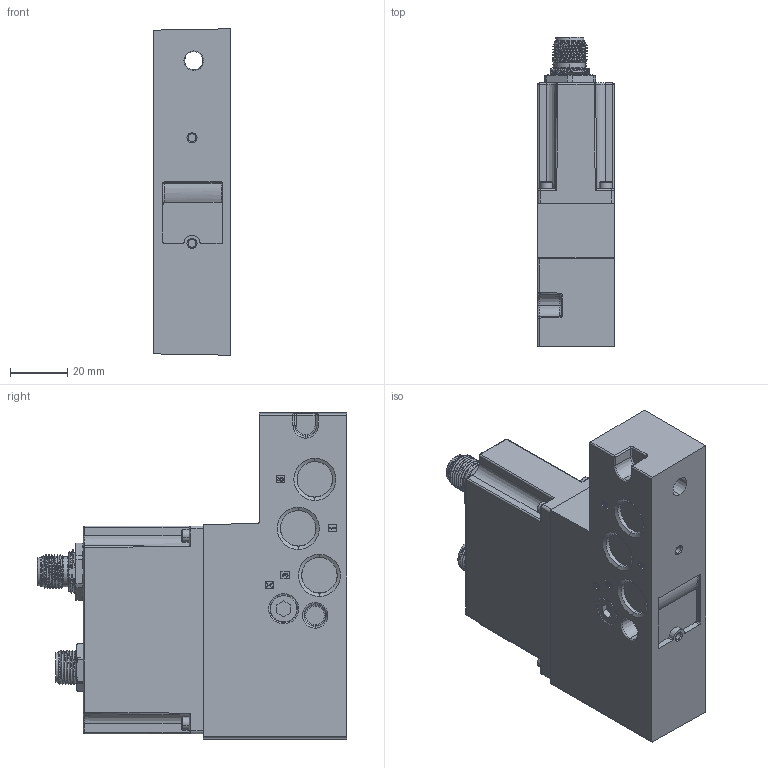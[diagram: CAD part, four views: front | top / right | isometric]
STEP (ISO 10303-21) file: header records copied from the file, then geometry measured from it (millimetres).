
FILE_DESCRIPTION (( 'STEP AP214' ), '1' );
FILE_NAME ('CLASS A MIO Link 42.STEP', '2024-08-23T19:18:19', ( '' ), ( '' ), 'SwSTEP 2.0', 'SolidWorks 2020', '' );
FILE_SCHEMA (( 'AUTOMOTIVE_DESIGN' ));
Length unit declared in the file: millimetre
Products named in the file (4): CLASS A MIO Link 42; B4-3114(SC); M-M0008-A(SC)_CLASS A; 89208(SC)
Assembly tree (3 placements, depth 2):
  CLASS A MIO Link 42
    B4-3114(SC)
    M-M0008-A(SC)_CLASS A
    89208(SC)
Bounding box: 26.8 x 108 x 113.98 mm (x, y, z)
Volume: 198060.8 mm3; surface area: 41319 mm2
Topology: 20 solids, 20 shells, 1659 faces, 4112 edges, 2523 vertices
Faces by surface type: plane 506, cylinder 487, cone 306, bspline 217, torus 95, sphere 48
Entity records: 156218 total; most frequent: CARTESIAN_POINT 100657, ORIENTED_EDGE 8058, DIRECTION 7417, EDGE_CURVE 4029, AXIS2_PLACEMENT_3D 2775, VERTEX_POINT 2521, LINE 1867, VECTOR 1867
